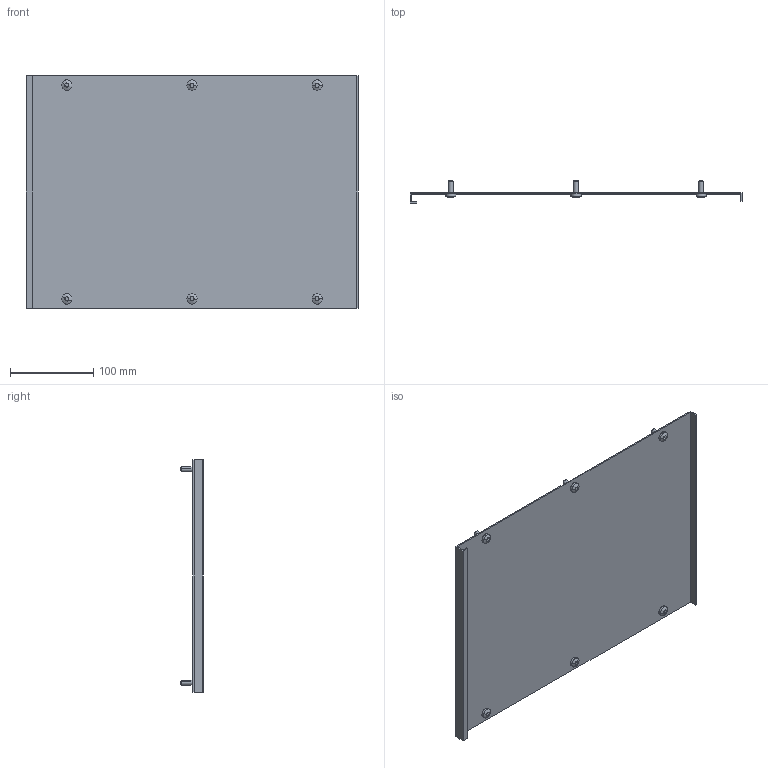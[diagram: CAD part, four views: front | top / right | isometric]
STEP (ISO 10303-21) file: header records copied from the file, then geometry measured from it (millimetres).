
FILE_DESCRIPTION (( 'STEP AP214' ), '1' );
FILE_NAME ('FO-00-PVS-040-040 Ïëàñòðîí ãëóõîé âíóòðåííèé 400õ400.STEP', '2025-09-30T07:42:51', ( '' ), ( '' ), 'SwSTEP 2.0', 'SolidWorks 2023', '' );
FILE_SCHEMA (( 'AUTOMOTIVE_DESIGN' ));
Length unit declared in the file: millimetre
Products named in the file (3): FO-00-PVS-040-040 Пластрон глухой внутренний 400х400; Винт M6x16 040 IEK
Assembly tree (3 placements, depth 2):
  FO-00-PVS-040-040 Пластрон глухой внутренний 400х400
    FO-00-PVS-040-040 Пластрон глухой внутренний 400х400
    Винт M6x16 040 IEK  x2
Bounding box: 398 x 27 x 279 mm (x, y, z)
Volume: 181710.8 mm3; surface area: 242274.7 mm2
Topology: 7 solids, 7 shells, 214 faces, 558 edges, 364 vertices
Faces by surface type: cylinder 132, plane 52, cone 18, bspline 12
Entity records: 4464 total; most frequent: CARTESIAN_POINT 1022, ORIENTED_EDGE 708, DIRECTION 692, EDGE_CURVE 354, AXIS2_PLACEMENT_3D 256, VERTEX_POINT 232, VECTOR 180, LINE 180
